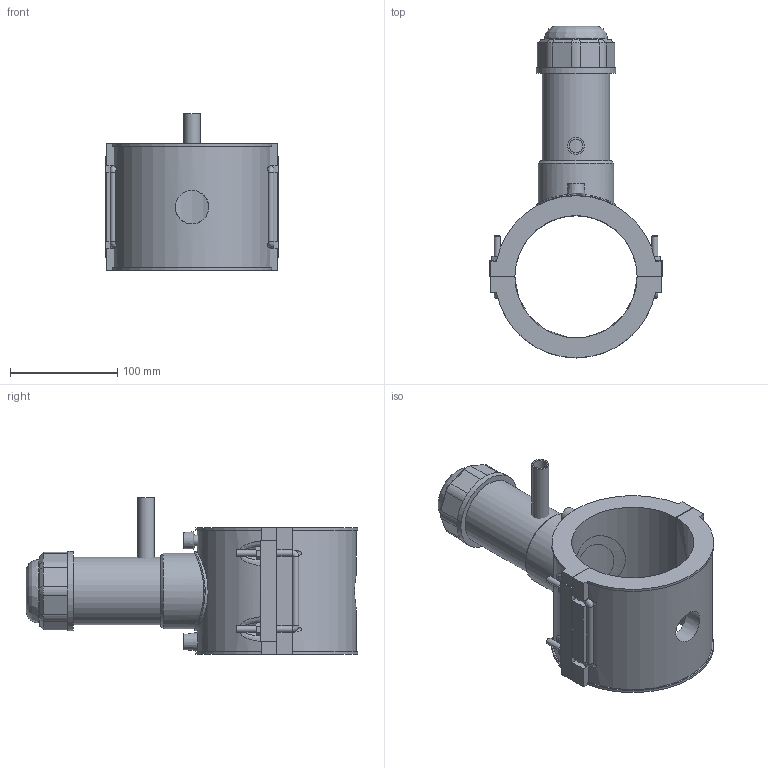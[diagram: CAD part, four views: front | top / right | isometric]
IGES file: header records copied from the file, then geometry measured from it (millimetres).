
Global section: file name: 5963BUP3040005.ipt; native system: Autodesk Inventor 2019; preprocessor: unknown; author: KIM; date: 20210830.101617; units: inch
Bounding box: 161 x 309.74 x 146.43 mm (x, y, z)
Volume: 1217132.4 mm3; surface area: 213169.7 mm2
Topology: 5 solids, 6 shells, 195 faces, 480 edges, 304 vertices
Faces by surface type: plane 112, cylinder 38, revolution 17, cone 15, bspline 13
Full cylindrical faces by diameter (mm): 4 x2, 6 x8, 15.8 x1, 59.332 x1, 63.04 x1, 70.457 x1, 74.165 x2
